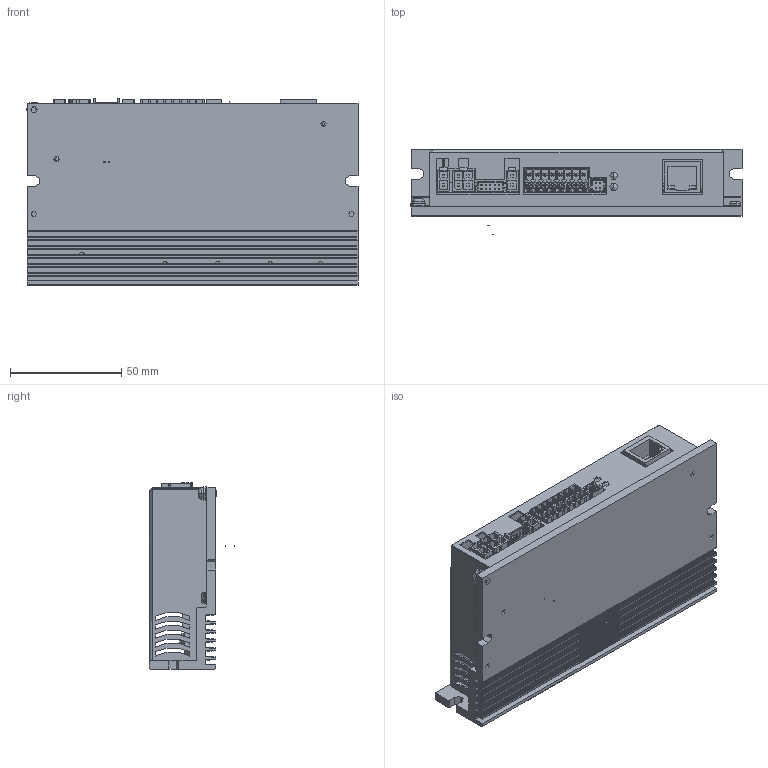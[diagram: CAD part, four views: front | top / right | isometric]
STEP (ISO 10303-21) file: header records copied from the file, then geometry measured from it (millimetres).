
FILE_DESCRIPTION((''),'2;1');
FILE_NAME('SW4_ETHERNET_ASM','2020-07-28T09:37:48',('Matteo Maccalli'),(''),'CREO PARAMETRIC BY PTC INC, 2019344','CREO PARAMETRIC BY PTC INC, 2019344','');
FILE_SCHEMA(('AUTOMOTIVE_DESIGN { 1 0 10303 214 1 1 1 1 }'));
Products named in the file (85): ESTRUSO_IMD03-00; AD_00907-00_IMD03_00; BOARD; 5151061F; GL500_ASM; USER_LIBRARY-TO252AA; QN300_ASM; E13; T200_ASM; 1206_SMD_RESISTOR; R201_ASM; QN307_ASM; QN306_ASM; QN305_ASM; QN304_ASM; QN303_ASM; QN302_ASM; QN301_ASM; MANIFOLD_SOLID_BREP_35345; MANIFOLD_SOLID_BREP_36830; MANIFOLD_SOLID_BREP_38269; MANIFOLD_SOLID_BREP_38335; MANIFOLD_SOLID_BREP_38409; MANIFOLD_SOLID_BREP_38923; MANIFOLD_SOLID_BREP_39437; MANIFOLD_SOLID_BREP_40221; MANIFOLD_SOLID_BREP_43970; USER_LIBRARY-LQH55D_SERIES_ASM; L200_ASM; PONTE_GSIB254_TERMINALI_5_1; DP200_ASM; J0011D01BNL; CN5A_ASM; DF11-10DP-2DS_X_8A_S_H_X_97_S__; DF11-10DP-2DS_ASM; CN4_ASM; SOLID-96324; COMPOUND-104890; MOLEX_039300040_ASM; CN2_ASM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
Assembly tree (93 placements, depth 6):
  SW4_ETHERNET_ASM
    ESTRUSO_IMD03-00
    AD_00907-00_IMD03_00
    EMD00-00_ETHERNET_ASM
      PCB_ASM
        BOARD
        GL500_ASM
          5151061F
        QN300_ASM
          USER_LIBRARY-TO252AA
        T200_ASM
          E13
        R201_ASM
          1206_SMD_RESISTOR
        QN307_ASM
          USER_LIBRARY-TO252AA
        QN306_ASM
          USER_LIBRARY-TO252AA
        QN305_ASM
          USER_LIBRARY-TO252AA
        QN304_ASM
          USER_LIBRARY-TO252AA
        QN303_ASM
          USER_LIBRARY-TO252AA
        QN302_ASM
          USER_LIBRARY-TO252AA
        QN301_ASM
          USER_LIBRARY-TO252AA
        L200_ASM
          USER_LIBRARY-LQH55D_SERIES_ASM
            MANIFOLD_SOLID_BREP_35345
            MANIFOLD_SOLID_BREP_36830
            MANIFOLD_SOLID_BREP_38269
            MANIFOLD_SOLID_BREP_38335
            MANIFOLD_SOLID_BREP_38409
            MANIFOLD_SOLID_BREP_38923
            MANIFOLD_SOLID_BREP_39437
            MANIFOLD_SOLID_BREP_40221
            MANIFOLD_SOLID_BREP_43970
        DP200_ASM
          PONTE_GSIB254_TERMINALI_5_1
        CN5A_ASM
          J0011D01BNL
        CN4_ASM
          DF11-10DP-2DS_ASM
            DF11-10DP-2DS_X_8A_S_H_X_97_S__
        CN2_ASM
          MOLEX_039300040_ASM
            SOLID-96324
            COMPOUND-104890
        CN1_ASM
          MOLEX_039300020_ASM
            SOLID-105052
            COMPOUND-111298
        CN1L_ASM
          MOLEX_039300020_ASM
            SOLID-105052
            COMPOUND-111298
        CE202_ASM
          USER_LIBRARY-CAP_5X11_ASM
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Bounding box: 149.3 x 38.52 x 83.99 mm (x, y, z)
Topology: 46 solids, 312 shells, 4359 faces, 13974 edges, 9395 vertices
Faces by surface type: plane 3323, cylinder 670, torus 126, sphere 104, extrusion 93, cone 28, bspline 14, revolution 1
Full cylindrical faces by diameter (mm): 0.2 x20, 0.3 x34, 0.316 x2, 0.336 x4, 0.4 x4, 0.422 x2, 0.457 x4, 0.5 x8, 0.6 x30, 1 x16, 1.902 x2, 2.5 x8, 3 x2, 3.5 x6
Entity records: 211371 total; most frequent: CARTESIAN_POINT 67121, ORIENTED_EDGE 21193, DIRECTION 19698, EDGE_CURVE 12361, PRESENTATION_STYLE_ASSIGNMENT 10780, STYLED_ITEM 9794, CURVE_STYLE 9650, VECTOR 8637
